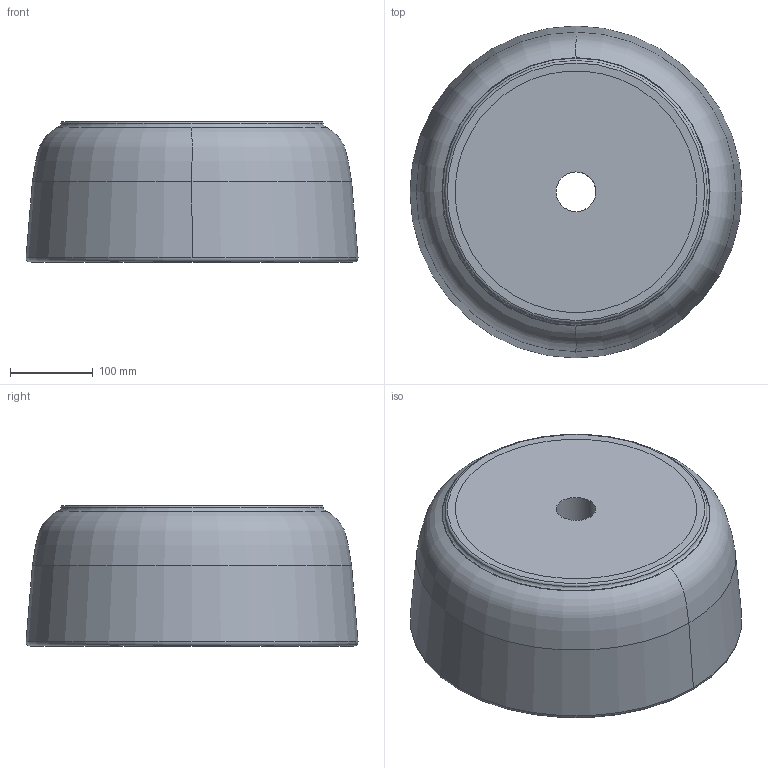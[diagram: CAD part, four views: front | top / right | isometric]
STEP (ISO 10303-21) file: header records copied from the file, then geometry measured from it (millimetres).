
FILE_DESCRIPTION(/* description */ (''),/* implementation_level */ '2;1');
FILE_NAME(/* name */ '412540_Architectura_Rund_AWT.stp',/* time_stamp */ '2018-09-28T07:50:07+02:00',/* author */ (''),/* organization */ (''),/* preprocessor_version */ 'ST-DEVELOPER v16',/* originating_system */ 'SIEMENS PLM Software NX 10.0',/* authorisation */ '');
FILE_SCHEMA (('AUTOMOTIVE_DESIGN { 1 0 10303 214 3 1 1 1 }'));
Length unit declared in the file: millimetre
Products named in the file (1): Conz1BB89C55r2xu
Bounding box: 400.32 x 400.32 x 169.94 mm (x, y, z)
Volume: 10451653.7 mm3; surface area: 497737 mm2
Topology: 1 solids, 1 shells, 32 faces, 80 edges, 51 vertices
Faces by surface type: revolution 12, bspline 10, torus 4, cone 3, plane 2, cylinder 1
Full cylindrical faces by diameter (mm): 24.566 x1
Entity records: 1976 total; most frequent: CARTESIAN_POINT 1303, ORIENTED_EDGE 144, DIRECTION 94, EDGE_CURVE 72, VERTEX_POINT 50, B_SPLINE_CURVE_WITH_KNOTS 50, EDGE_LOOP 42, AXIS2_PLACEMENT_3D 41
